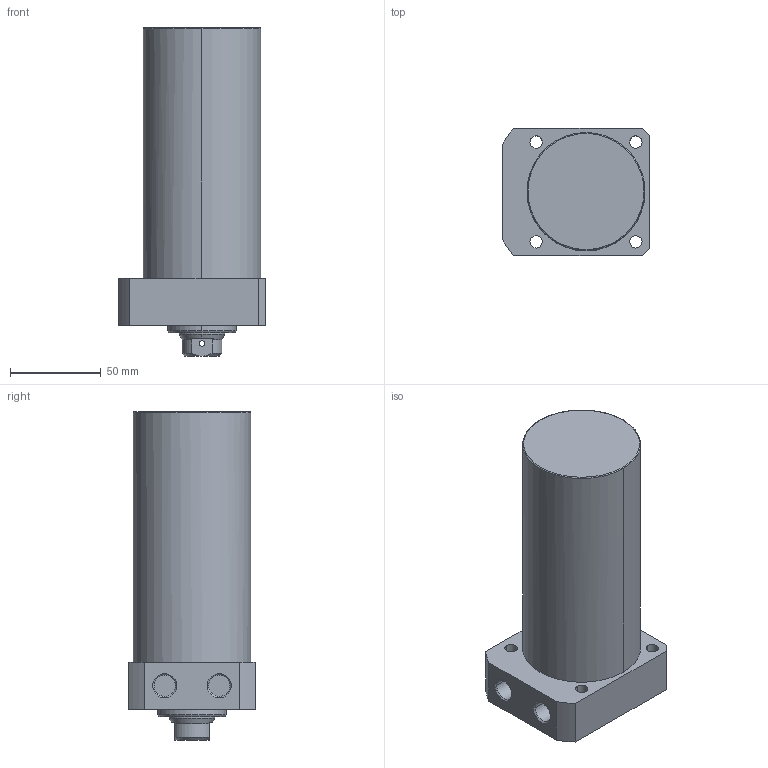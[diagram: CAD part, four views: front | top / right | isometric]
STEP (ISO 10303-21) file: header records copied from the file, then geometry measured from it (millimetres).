
FILE_DESCRIPTION((' '),'2;1');
FILE_NAME( 'TLLR-065CB-105.STEP.stp', '2025-10-24T16:34:56', (' '), ('--- Datakit www.datakit.com---'), ' Datakit CrossCadWare V2024.1 Dec 21 2023', 'Mastercam 2025', ' ');
FILE_SCHEMA(('AUTOMOTIVE_DESIGN { 1 0 10303 214 1 1 1 1 }'));
Length unit declared in the file: millimetre
Products named in the file (1): TLLR-065CB-105
Bounding box: 81 x 70 x 181 mm (x, y, z)
Volume: 601813 mm3; surface area: 52650.5 mm2
Topology: 1 solids, 1 shells, 67 faces, 197 edges, 136 vertices
Faces by surface type: cylinder 32, plane 19, cone 14, torus 2
Entity records: 3278 total; most frequent: CARTESIAN_POINT 1359, DIRECTION 426, ORIENTED_EDGE 390, EDGE_CURVE 195, AXIS2_PLACEMENT_3D 179, VERTEX_POINT 136, CIRCLE 111, EDGE_LOOP 85
